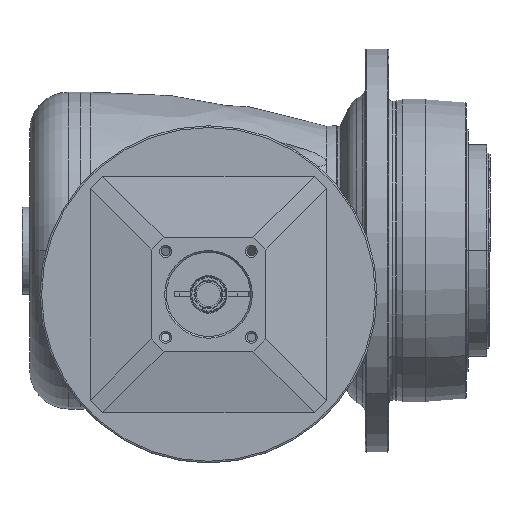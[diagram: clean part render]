
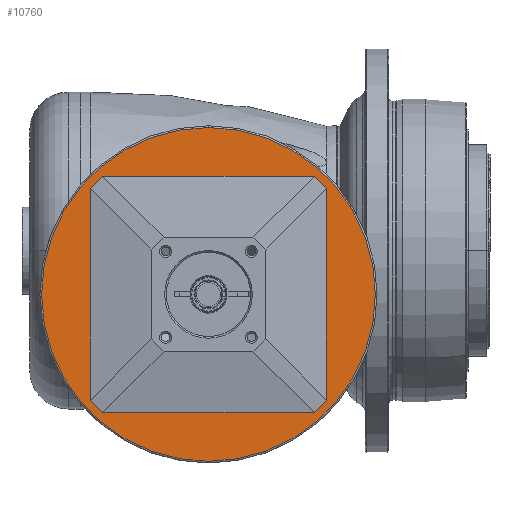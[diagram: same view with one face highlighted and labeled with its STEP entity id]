
A CAD part, front view. The second image highlights one B-rep face of the part: STEP entity #10760.
In plain terms, the highlighted planar face has unit normal (0, -1, 0) as drawn and (1, 0, 0) by its records, which use the part's own axes.
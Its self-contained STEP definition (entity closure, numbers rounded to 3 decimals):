
#9743=CARTESIAN_POINT('',(-7.,0.,0.));
#9744=DIRECTION('',(-1.,0.,0.));
#9745=DIRECTION('',(0.,-1.,0.));
#9746=AXIS2_PLACEMENT_3D('',#9743,#9744,#9745);
#9748=CARTESIAN_POINT('',(-7.,0.,0.));
#9749=DIRECTION('',(-1.,0.,0.));
#9750=DIRECTION('',(0.,1.,0.));
#9751=AXIS2_PLACEMENT_3D('',#9748,#9749,#9750);
#9753=CARTESIAN_POINT('',(-7.,0.,0.));
#9754=DIRECTION('',(-1.,0.,0.));
#9755=DIRECTION('',(0.,-1.,0.));
#9756=AXIS2_PLACEMENT_3D('',#9753,#9754,#9755);
#9758=CARTESIAN_POINT('',(-7.,0.,0.));
#9759=DIRECTION('',(-1.,0.,0.));
#9760=DIRECTION('',(0.,1.,0.));
#9761=AXIS2_PLACEMENT_3D('',#9758,#9759,#9760);
#10005=CARTESIAN_POINT('',(-7.,-49.5,0.));
#10006=CARTESIAN_POINT('',(-7.,49.5,0.));
#10007=VERTEX_POINT('',#10005);
#10008=VERTEX_POINT('',#10006);
#10063=CARTESIAN_POINT('',(-7.,-34.5,0.));
#10064=CARTESIAN_POINT('',(-7.,34.5,0.));
#10065=VERTEX_POINT('',#10063);
#10066=VERTEX_POINT('',#10064);
#10745=CARTESIAN_POINT('',(-7.,0.,0.));
#10746=DIRECTION('',(1.,0.,0.));
#10747=DIRECTION('',(0.,-1.,0.));
#10748=AXIS2_PLACEMENT_3D('',#10745,#10746,#10747);
#10749=PLANE('',#10748);
#10750=ORIENTED_EDGE('',*,*,#10677,.T.);
#10751=ORIENTED_EDGE('',*,*,#10662,.T.);
#10752=EDGE_LOOP('',(#10750,#10751));
#10753=FACE_OUTER_BOUND('',#10752,.F.);
#10755=ORIENTED_EDGE('',*,*,#10754,.F.);
#10757=ORIENTED_EDGE('',*,*,#10756,.F.);
#10758=EDGE_LOOP('',(#10755,#10757));
#10759=FACE_BOUND('',#10758,.F.);
#10760=ADVANCED_FACE('',(#10753,#10759),#10749,.T.);
#9747=CIRCLE('',#9746,34.5);
#9752=CIRCLE('',#9751,34.5);
#9757=CIRCLE('',#9756,49.5);
#9762=CIRCLE('',#9761,49.5);
#10662=EDGE_CURVE('',#10008,#10007,#9762,.T.);
#10677=EDGE_CURVE('',#10007,#10008,#9757,.T.);
#10754=EDGE_CURVE('',#10065,#10066,#9747,.T.);
#10756=EDGE_CURVE('',#10066,#10065,#9752,.T.);
